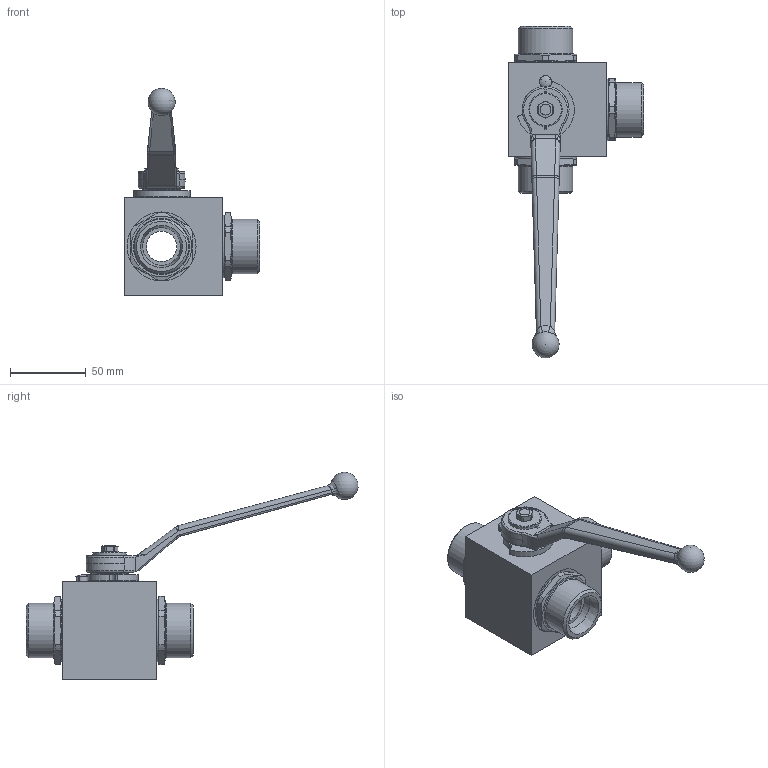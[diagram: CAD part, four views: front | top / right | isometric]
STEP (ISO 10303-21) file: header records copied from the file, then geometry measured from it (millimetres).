
FILE_DESCRIPTION( ( 'Unknown' ), '1' );
FILE_NAME( 'H:/PISTER/3D-MODELLE/BK3-Edelstahl stp/BK3-Edelst DN20 25S.stp', 'Unknown', ( 'Unknown' ), ( 'Unknown' ), 'PSStep 14.0', 'Unknown', ' ' );
FILE_SCHEMA( ( 'AUTOMOTIVE_DESIGN { 1 0 10303 214 1 1 1 1 }' ) );
Length unit declared in the file: millimetre
Products named in the file (12): Assem1; 58-28740-10-oa0; 10-025-001-oa2; 56-032-073-oa3; 09-14-002; 58-0440-007; 06-020-003-oa7; 04-020-041-oa8; 04-020-041-oa9; 03-020-003-oa11; Griff_SW14; 01-020-040-oa12
Assembly tree (11 placements, depth 2):
  Assem1
    58-28740-10-oa0
    10-025-001-oa2
    56-032-073-oa3
    09-14-002
    58-0440-007
    06-020-003-oa7
    04-020-041-oa8
    04-020-041-oa9
    03-020-003-oa11
    Griff_SW14
    01-020-040-oa12
Bounding box: 89.2 x 219.13 x 136.9 mm (x, y, z)
Volume: 247502.3 mm3; surface area: 70483 mm2
Topology: 11 solids, 11 shells, 340 faces, 864 edges, 550 vertices
Faces by surface type: plane 115, cylinder 107, cone 45, torus 38, bspline 32, sphere 3
Full cylindrical faces by diameter (mm): 5 x1, 6 x1, 6.6 x1, 7.98 x1, 20 x5, 20.2 x1, 22 x1, 25 x4, 31 x1, 34.3 x1, 36 x3, 36.376 x1, 36.5 x1, 38 x1, 38.3 x1, 40 x1, 41 x3, 45.5 x3
Entity records: 15027 total; most frequent: CARTESIAN_POINT 4680, ORIENTED_EDGE 1518, DIRECTION 1481, EDGE_CURVE 759, AXIS2_PLACEMENT_3D 621, VERTEX_POINT 518, EDGE_LOOP 437, FACE_OUTER_BOUND 382
